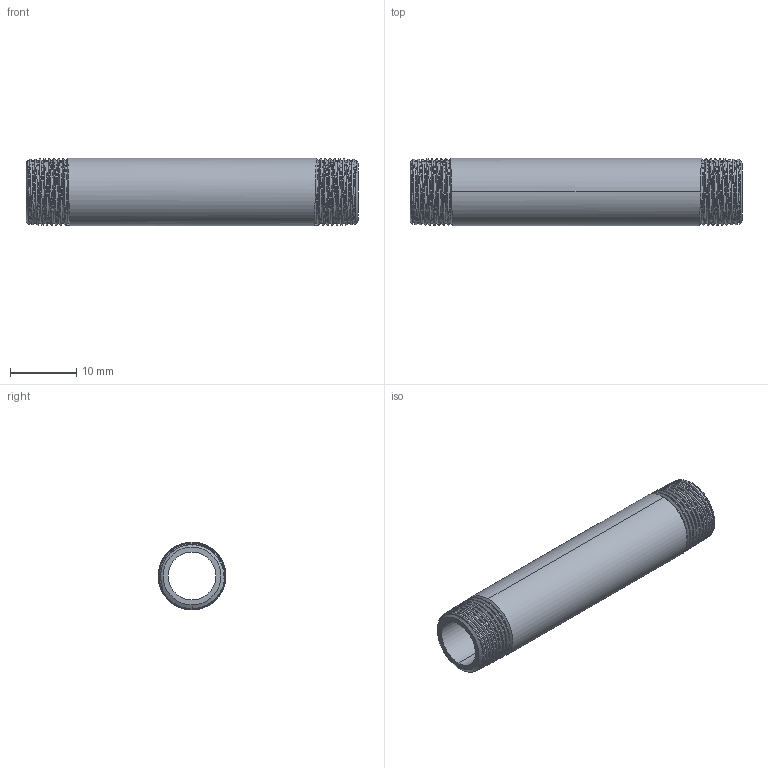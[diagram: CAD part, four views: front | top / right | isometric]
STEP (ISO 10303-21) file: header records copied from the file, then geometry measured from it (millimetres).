
FILE_DESCRIPTION (( 'STEP AP203' ), '1' );
FILE_NAME ('3D_R210_1-8x50_17185939.STEP', '2024-08-16T11:00:16', ( '' ), ( '' ), 'SwSTEP 2.0', 'SolidWorks 2024', '' );
FILE_SCHEMA (( 'CONFIG_CONTROL_DESIGN' ));
Length unit declared in the file: millimetre
Products named in the file (1): 3D_R210_1-8x50_17185939
Bounding box: 50 x 10.2 x 10.2 mm (x, y, z)
Volume: 1957.7 mm3; surface area: 2946.5 mm2
Topology: 1 solids, 1 shells, 54 faces, 150 edges, 98 vertices
Faces by surface type: cone 40, bspline 6, cylinder 4, plane 4
Entity records: 6878 total; most frequent: CARTESIAN_POINT 5622, ORIENTED_EDGE 300, DIRECTION 166, EDGE_CURVE 150, VERTEX_POINT 98, B_SPLINE_CURVE_WITH_KNOTS 86, AXIS2_PLACEMENT_3D 61, EDGE_LOOP 56
